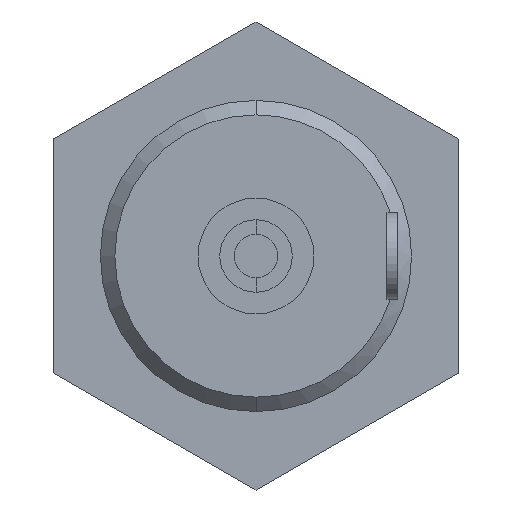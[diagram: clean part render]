
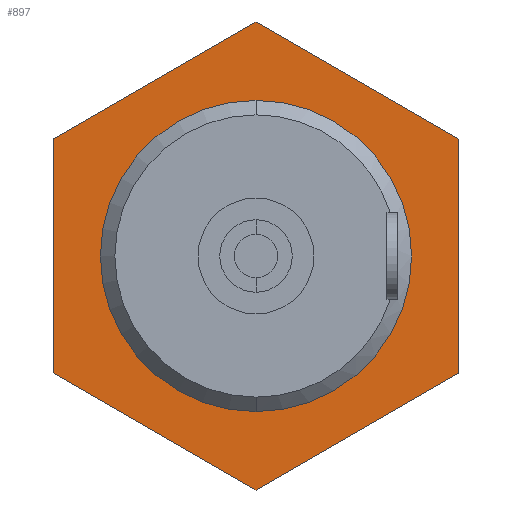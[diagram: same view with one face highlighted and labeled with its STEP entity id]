
A CAD part, left-side view. The second image highlights one B-rep face of the part: STEP entity #897.
In plain terms, the highlighted planar face has unit normal (-1, 0, 0).
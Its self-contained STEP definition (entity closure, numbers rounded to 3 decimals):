
#30 = CARTESIAN_POINT ( 'NONE',  ( -4.5, 0., 0. ) ) ;
#32 = DIRECTION ( 'NONE',  ( 0., 0., 1. ) ) ;
#62 = DIRECTION ( 'NONE',  ( 1., 0., 0. ) ) ;
#83 = DIRECTION ( 'NONE',  ( 0., 0., -1. ) ) ;
#86 = CARTESIAN_POINT ( 'NONE',  ( -4.5, 0., 8.083 ) ) ;
#90 = DIRECTION ( 'NONE',  ( 0., 0.866, -0.5 ) ) ;
#98 = DIRECTION ( 'NONE',  ( 0., -0.866, 0.5 ) ) ;
#106 = CARTESIAN_POINT ( 'NONE',  ( -4.5, -7., 4.041 ) ) ;
#112 = CARTESIAN_POINT ( 'NONE',  ( -4.5, 7., 4.041 ) ) ;
#130 = DIRECTION ( 'NONE',  ( 0., 0., 1. ) ) ;
#183 = CARTESIAN_POINT ( 'NONE',  ( -4.5, 0., -8.083 ) ) ;
#184 = CARTESIAN_POINT ( 'NONE',  ( -4.5, 7., -4.041 ) ) ;
#200 = DIRECTION ( 'NONE',  ( 0., -0.866, -0.5 ) ) ;
#202 = DIRECTION ( 'NONE',  ( 0., 0.866, 0.5 ) ) ;
#206 = CARTESIAN_POINT ( 'NONE',  ( -4.5, -7., -4.041 ) ) ;
#256 = EDGE_CURVE ( 'NONE', #1562, #1623, #1127, .T. ) ;
#275 = EDGE_CURVE ( 'NONE', #1623, #1562, #1059, .T. ) ;
#291 = EDGE_CURVE ( 'NONE', #1612, #1614, #1011, .T. ) ;
#292 = EDGE_CURVE ( 'NONE', #1614, #1677, #1008, .T. ) ;
#293 = EDGE_CURVE ( 'NONE', #1677, #1585, #1006, .T. ) ;
#294 = EDGE_CURVE ( 'NONE', #1585, #1634, #1004, .T. ) ;
#295 = EDGE_CURVE ( 'NONE', #1634, #1556, #1002, .T. ) ;
#296 = EDGE_CURVE ( 'NONE', #1556, #1612, #1000, .T. ) ;
#408 = AXIS2_PLACEMENT_3D ( 'NONE', #883, #657, #548 ) ;
#457 = AXIS2_PLACEMENT_3D ( 'NONE', #30, #62, #32 ) ;
#466 = AXIS2_PLACEMENT_3D ( 'NONE', #1586, #1583, #1639 ) ;
#548 = DIRECTION ( 'NONE',  ( 0., 0., 1. ) ) ;
#622 = CARTESIAN_POINT ( 'NONE',  ( -4.5, 0., 5.375 ) ) ;
#629 = CARTESIAN_POINT ( 'NONE',  ( -4.5, 7., -4.041 ) ) ;
#648 = CARTESIAN_POINT ( 'NONE',  ( -4.5, 0., -5.375 ) ) ;
#657 = DIRECTION ( 'NONE',  ( -1., 0., 0. ) ) ;
#670 = CARTESIAN_POINT ( 'NONE',  ( -4.5, 0., -8.083 ) ) ;
#687 = CARTESIAN_POINT ( 'NONE',  ( -4.5, 7., 4.041 ) ) ;
#753 = CARTESIAN_POINT ( 'NONE',  ( -4.5, -7., 4.041 ) ) ;
#779 = CARTESIAN_POINT ( 'NONE',  ( -4.5, -7., -4.041 ) ) ;
#788 = PLANE ( 'NONE',  #408 ) ;
#831 = CARTESIAN_POINT ( 'NONE',  ( -4.5, 0., 8.083 ) ) ;
#883 = CARTESIAN_POINT ( 'NONE',  ( -4.5, 0., -8.083 ) ) ;
#897 = ADVANCED_FACE ( 'NONE', ( #1068, #1069 ), #788, .T. ) ;
#999 = VECTOR ( 'NONE', #83, 1000. ) ;
#1000 = LINE ( 'NONE', #112, #999 ) ;
#1001 = VECTOR ( 'NONE', #90, 1000. ) ;
#1002 = LINE ( 'NONE', #86, #1001 ) ;
#1003 = VECTOR ( 'NONE', #202, 1000. ) ;
#1004 = LINE ( 'NONE', #106, #1003 ) ;
#1005 = VECTOR ( 'NONE', #130, 1000. ) ;
#1006 = LINE ( 'NONE', #206, #1005 ) ;
#1007 = VECTOR ( 'NONE', #98, 1000. ) ;
#1008 = LINE ( 'NONE', #183, #1007 ) ;
#1009 = VECTOR ( 'NONE', #200, 1000. ) ;
#1011 = LINE ( 'NONE', #184, #1009 ) ;
#1059 = CIRCLE ( 'NONE', #457, 5.375 ) ;
#1068 = FACE_BOUND ( 'NONE', #1329, .T. ) ;
#1069 = FACE_OUTER_BOUND ( 'NONE', #1236, .T. ) ;
#1127 = CIRCLE ( 'NONE', #466, 5.375 ) ;
#1236 = EDGE_LOOP ( 'NONE', ( #1519, #1520, #1521, #1522, #1523, #1524 ) ) ;
#1329 = EDGE_LOOP ( 'NONE', ( #1517, #1518 ) ) ;
#1517 = ORIENTED_EDGE ( 'NONE', *, *, #256, .T. ) ;
#1518 = ORIENTED_EDGE ( 'NONE', *, *, #275, .T. ) ;
#1519 = ORIENTED_EDGE ( 'NONE', *, *, #291, .T. ) ;
#1520 = ORIENTED_EDGE ( 'NONE', *, *, #292, .T. ) ;
#1521 = ORIENTED_EDGE ( 'NONE', *, *, #293, .T. ) ;
#1522 = ORIENTED_EDGE ( 'NONE', *, *, #294, .T. ) ;
#1523 = ORIENTED_EDGE ( 'NONE', *, *, #295, .T. ) ;
#1524 = ORIENTED_EDGE ( 'NONE', *, *, #296, .T. ) ;
#1556 = VERTEX_POINT ( 'NONE', #687 ) ;
#1562 = VERTEX_POINT ( 'NONE', #648 ) ;
#1583 = DIRECTION ( 'NONE',  ( 1., 0., 0. ) ) ;
#1585 = VERTEX_POINT ( 'NONE', #753 ) ;
#1586 = CARTESIAN_POINT ( 'NONE',  ( -4.5, 0., 0. ) ) ;
#1612 = VERTEX_POINT ( 'NONE', #629 ) ;
#1614 = VERTEX_POINT ( 'NONE', #670 ) ;
#1623 = VERTEX_POINT ( 'NONE', #622 ) ;
#1634 = VERTEX_POINT ( 'NONE', #831 ) ;
#1639 = DIRECTION ( 'NONE',  ( 0., 0., 1. ) ) ;
#1677 = VERTEX_POINT ( 'NONE', #779 ) ;
